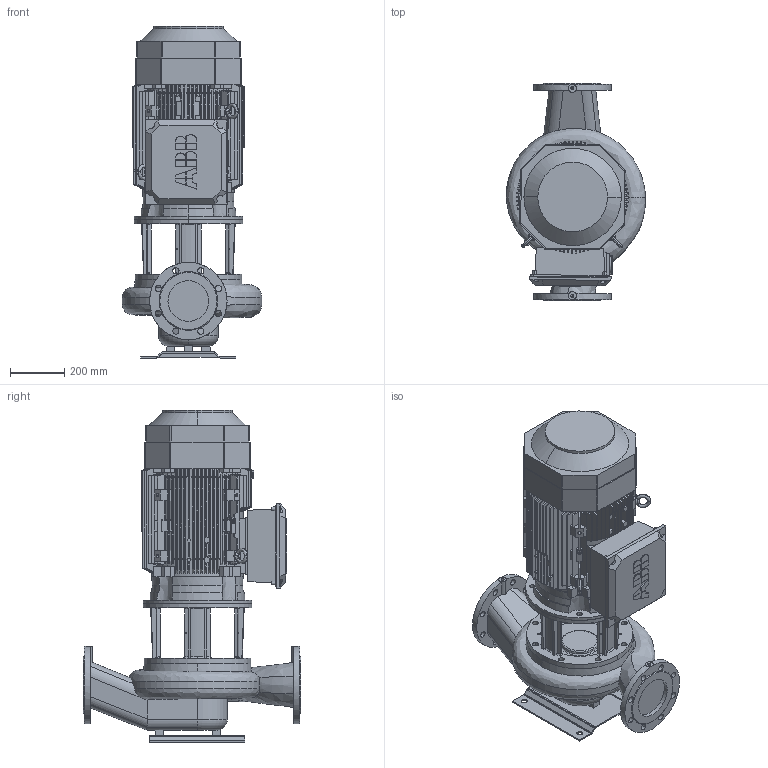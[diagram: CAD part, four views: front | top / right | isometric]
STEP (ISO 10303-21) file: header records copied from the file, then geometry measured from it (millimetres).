
FILE_DESCRIPTION(('STEP AP214'),'1');
FILE_NAME('export.stp','2018-05-29T13:29:33',(' '),(' '),'Spatial InterOp 3D',' ',' ');
FILE_SCHEMA(('AUTOMOTIVE_DESIGN { 1 0 10303 214 1 1 1 1 }'));
Length unit declared in the file: millimetre
Products named in the file (20): W_AL11544SD300; V_TL110611291154; P100496; P100495; P100342; V_PPAL1154; IEC-200; -simplified-simplified_parts_Sta; 3GZV183002-193006-183002-183999_; 3GZV311000-999999-324000-324001_; -simplified-simplified_parts_Ter; 3GZV244000-310999-294000-299999_; -simplified-simplified_parts_M32; -simplified-simplified_parts_Fan; Implementation-STANDARD_PARTS_Li; ICE200_FRAME; P100781
Assembly tree (21 placements, depth 4):
  W_AL11544SD300
    V_TL110611291154
    P100496
      P100495  x2
      P100342
    V_PPAL1154
    ICE200_FRAME
      IEC-200
        -simplified-simplified_parts_Sta
        3GZV183002-193006-183002-183999_
        3GZV311000-999999-324000-324001_
        -simplified-simplified_parts_Ter
        -simplified-simplified_parts_Ter
        3GZV244000-310999-294000-299999_
        3GZV244000-310999-294000-299999_
        3GZV244000-310999-294000-299999_
        -simplified-simplified_parts_M32
        -simplified-simplified_parts_Fan
        Implementation-STANDARD_PARTS_Li  x2
      P100781
Bounding box: 513.13 x 800 x 1222.53 mm (x, y, z)
Volume: 128012001.3 mm3; surface area: 5928499.5 mm2
Topology: 13 solids, 262 shells, 2098 faces, 6333 edges, 4529 vertices
Faces by surface type: bspline 1712, cylinder 216, plane 100, torus 38, cone 32
Entity records: 113233 total; most frequent: CARTESIAN_POINT 38392, ORIENTED_EDGE 11208, EDGE_CURVE 6140, STYLED_ITEM 6133, PRESENTATION_STYLE_ASSIGNMENT 6133, COLOUR_RGB 6133, VERTEX_POINT 4371, CURVE_STYLE 4060
